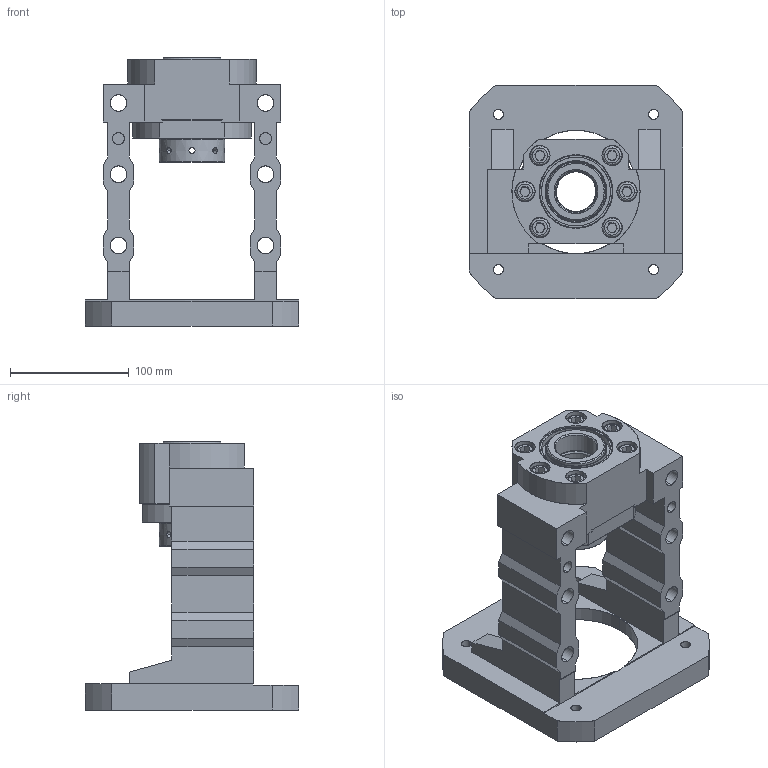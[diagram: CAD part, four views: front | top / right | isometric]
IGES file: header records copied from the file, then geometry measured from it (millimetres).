
Start section: SolidWorks IGES file using analytic representation for surfaces
Bounding box: 180 x 180 x 226 mm (x, y, z)
Surface area: 236078.9 mm2 (no closed solid volume)
Topology: 0 solids, 0 shells, 357 faces, 6464 edges, 6456 vertices
Faces by surface type: revolution 187, bspline 170
